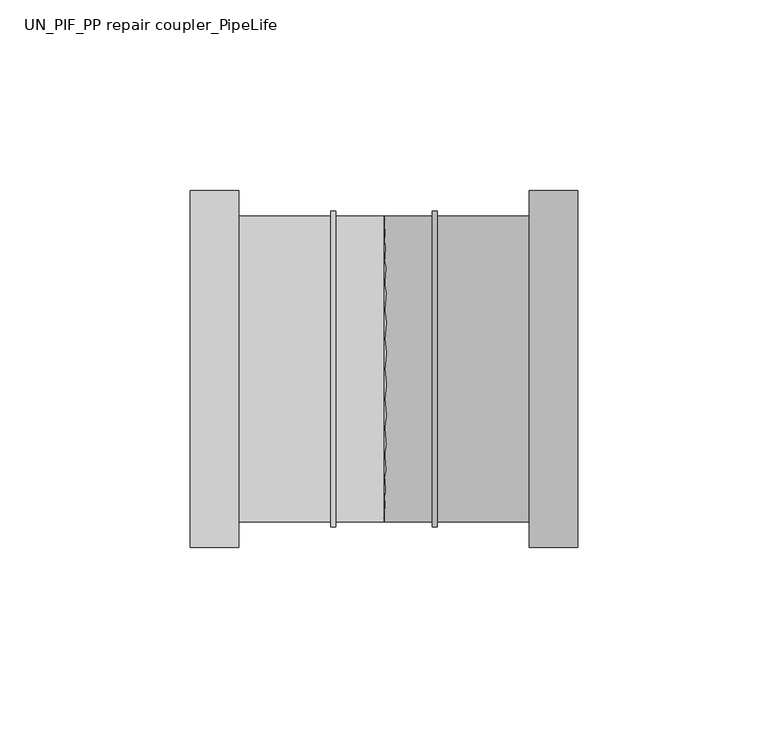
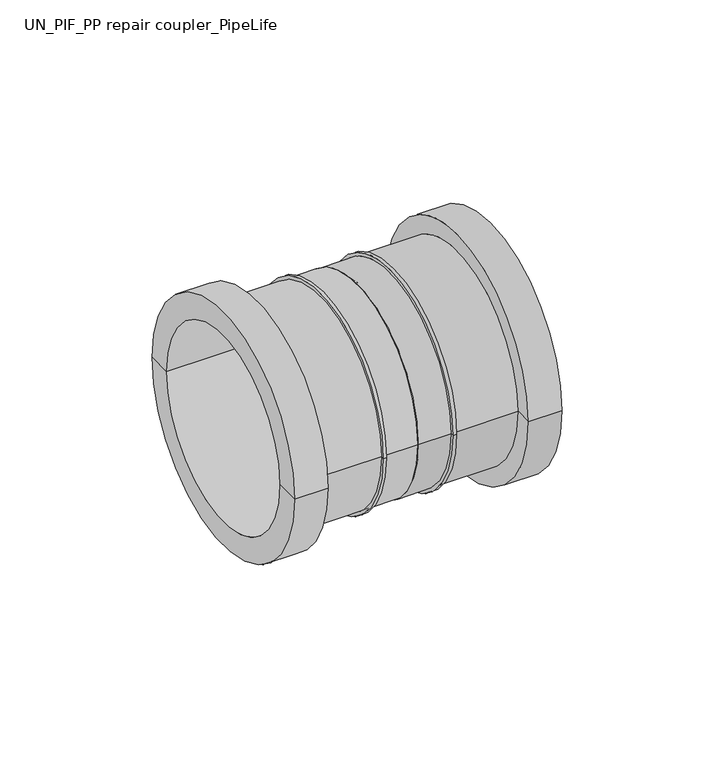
"""IFC4 building model written with IfcOpenShell, lengths in millimetres: pipe fitting geometry, UN_PIF_PP repair coupler_PipeLife : Black, var. DN/OD (max. ø125)."""

from ifc_helpers import new_model, si_unit, frame, origin, place, context, project, spatial, polyline, circle_curve, source, transform, mapped, element, save
from ifc_brep_helpers import plane_surface, cylinder_surface, revolved_surface, advanced_brep


def un_pif_pp_repair_coupler_pipelife_34faee59(model_context):
    return source(origin(), model_context, "Body", "AdvancedBrep", [
        advanced_brep(
        [(2.7, 37.5, 0.0), (2.7, -37.5, 0.0), (0.0, -40.2, 0.0), (0.0, 40.2, 0.0), (-50.8, 46.9, 0.0), (-50.8, -46.9, 0.0), (-50.8, -37.5, 0.0), (-50.8, 37.5, 0.0), (-38.1, 46.9, 0.0), (-38.1, -46.9, 0.0), (-38.1, 40.2, 0.0), (-38.1, -40.2, 0.0), (-13.95, 40.2, 0.0), (-13.95, -40.2, 0.0), (-13.95, 41.45, 0.0), (-13.95, -41.45, 0.0), (-12.7, 41.45, 0.0), (-12.7, -41.45, 0.0), (-12.7, 40.2, 0.0), (-12.7, -40.2, 0.0)],
        [
            (0, 1, circle_curve(frame((2.7, 0.0, 0.0), z_axis=(-1.0, 0.0, 0.0), x_axis=(0.0, -1.0, 0.0)), 37.5)),
            (1, 2),
            (2, 3, circle_curve(frame((0.0, 0.0, 0.0), z_axis=(1.0, 0.0, 0.0), x_axis=(0.0, -1.0, 0.0)), 40.2)),
            (3, 0),
            (1, 0, circle_curve(frame((2.7, 0.0, 0.0), z_axis=(-1.0, 0.0, 0.0), x_axis=(0.0, -1.0, 0.0)), 37.5)),
            (3, 2, circle_curve(frame((0.0, 0.0, 0.0), z_axis=(1.0, 0.0, 0.0), x_axis=(0.0, -1.0, 0.0)), 40.2)),
            (4, 5, circle_curve(frame((-50.8, 0.0, 0.0), z_axis=(-1.0, 0.0, 0.0), x_axis=(0.0, -1.0, 0.0)), 46.9)),
            (5, 6),
            (6, 7, circle_curve(frame((-50.8, 0.0, 0.0), z_axis=(1.0, 0.0, 0.0), x_axis=(0.0, -1.0, 0.0)), 37.5)),
            (7, 4),
            (5, 4, circle_curve(frame((-50.8, 0.0, 0.0), z_axis=(-1.0, 0.0, 0.0), x_axis=(0.0, -1.0, 0.0)), 46.9)),
            (7, 6, circle_curve(frame((-50.8, 0.0, 0.0), z_axis=(1.0, 0.0, 0.0), x_axis=(0.0, -1.0, 0.0)), 37.5)),
            (8, 9, circle_curve(frame((-38.1, 0.0, 0.0), z_axis=(-1.0, 0.0, 0.0), x_axis=(0.0, -1.0, 0.0)), 46.9)),
            (9, 5),
            (4, 8),
            (9, 8, circle_curve(frame((-38.1, 0.0, 0.0), z_axis=(-1.0, 0.0, 0.0), x_axis=(0.0, -1.0, 0.0)), 46.9)),
            (10, 11, circle_curve(frame((-38.1, 0.0, 0.0), z_axis=(-1.0, 0.0, 0.0), x_axis=(0.0, -1.0, 0.0)), 40.2)),
            (11, 9),
            (8, 10),
            (11, 10, circle_curve(frame((-38.1, 0.0, 0.0), z_axis=(-1.0, 0.0, 0.0), x_axis=(0.0, -1.0, 0.0)), 40.2)),
            (12, 13, circle_curve(frame((-13.95, 0.0, 0.0), z_axis=(-1.0, 0.0, 0.0), x_axis=(0.0, -1.0, 0.0)), 40.2)),
            (13, 11),
            (10, 12),
            (13, 12, circle_curve(frame((-13.95, 0.0, 0.0), z_axis=(-1.0, 0.0, 0.0), x_axis=(0.0, -1.0, 0.0)), 40.2)),
            (14, 15, circle_curve(frame((-13.95, 0.0, 0.0), z_axis=(-1.0, 0.0, 0.0), x_axis=(0.0, -1.0, 0.0)), 41.45)),
            (15, 13),
            (12, 14),
            (15, 14, circle_curve(frame((-13.95, 0.0, 0.0), z_axis=(-1.0, 0.0, 0.0), x_axis=(0.0, -1.0, 0.0)), 41.45)),
            (16, 17, circle_curve(frame((-12.7, 0.0, 0.0), z_axis=(-1.0, 0.0, 0.0), x_axis=(0.0, -1.0, 0.0)), 41.45)),
            (17, 15),
            (14, 16),
            (17, 16, circle_curve(frame((-12.7, 0.0, 0.0), z_axis=(-1.0, 0.0, 0.0), x_axis=(0.0, -1.0, 0.0)), 41.45)),
            (18, 19, circle_curve(frame((-12.7, 0.0, 0.0), z_axis=(-1.0, 0.0, 0.0), x_axis=(0.0, -1.0, 0.0)), 40.2)),
            (19, 17),
            (16, 18),
            (19, 18, circle_curve(frame((-12.7, 0.0, 0.0), z_axis=(-1.0, 0.0, 0.0), x_axis=(0.0, -1.0, 0.0)), 40.2)),
            (2, 19),
            (18, 3),
            (6, 1),
            (0, 7),
        ],
        [
            revolved_surface(polyline([(0.0, -40.2, 0.0), (2.7, -37.5, 0.0)]), (-50.8, 0.0, 0.0), (1.0, 0.0, 0.0)),
            plane_surface(frame((-50.8, 0.0, 0.0), z_axis=(-1.0, 0.0, 0.0), x_axis=(0.0, -1.0, 0.0))),
            cylinder_surface(frame((-50.8, 0.0, 0.0), z_axis=(1.0, 0.0, 0.0), x_axis=(0.0, -1.0, 0.0)), 46.9),
            plane_surface(frame((-38.1, 0.0, 0.0), z_axis=(1.0, 0.0, 0.0), x_axis=(0.0, -1.0, 0.0))),
            cylinder_surface(frame((-50.8, 0.0, 0.0), z_axis=(1.0, 0.0, 0.0), x_axis=(0.0, -1.0, 0.0)), 40.2),
            plane_surface(frame((-13.95, 0.0, 0.0), z_axis=(-1.0, 0.0, 0.0), x_axis=(0.0, -1.0, 0.0))),
            cylinder_surface(frame((-50.8, 0.0, 0.0), z_axis=(1.0, 0.0, 0.0), x_axis=(0.0, -1.0, 0.0)), 41.45),
            plane_surface(frame((-12.7, 0.0, 0.0), z_axis=(1.0, 0.0, 0.0), x_axis=(0.0, -1.0, 0.0))),
            revolved_surface(polyline([(2.700000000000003, -37.5, 0.0), (-50.8, -37.5, 0.0)]), (-50.8, 0.0, 0.0), (1.0, 0.0, 0.0)),
        ],
        [
            (0, [[1, 2, 3, 4]]),
            (0, [[5, -4, 6, -2]]),
            (1, [[7, 8, 9, 10]]),
            (1, [[11, -10, 12, -8]]),
            (2, [[13, 14, -7, 15]]),
            (2, [[16, -15, -11, -14]]),
            (3, [[17, 18, -13, 19]]),
            (3, [[20, -19, -16, -18]]),
            (4, [[21, 22, -17, 23]]),
            (4, [[24, -23, -20, -22]]),
            (5, [[25, 26, -21, 27]]),
            (5, [[28, -27, -24, -26]]),
            (6, [[29, 30, -25, 31]]),
            (6, [[32, -31, -28, -30]]),
            (7, [[33, 34, -29, 35]]),
            (7, [[36, -35, -32, -34]]),
            (4, [[-3, 37, -33, 38]]),
            (4, [[-6, -38, -36, -37]]),
            (8, [[-9, 39, -1, 40]]),
            (8, [[-12, -40, -5, -39]]),
        ],
    ),
        advanced_brep(
        [(-2.7, -37.5, 0.0), (-2.7, 37.5, 0.0), (0.0, 40.2, 0.0), (0.0, -40.2, 0.0), (50.8, -46.9, 0.0), (50.8, 46.9, 0.0), (50.8, 37.5, 0.0), (50.8, -37.5, 0.0), (38.1, -46.9, 0.0), (38.1, 46.9, 0.0), (38.1, -40.2, 0.0), (38.1, 40.2, 0.0), (13.95, -40.2, 0.0), (13.95, 40.2, 0.0), (13.95, -41.45, 0.0), (13.95, 41.45, 0.0), (12.7, -41.45, 0.0), (12.7, 41.45, 0.0), (12.7, -40.2, 0.0), (12.7, 40.2, 0.0)],
        [
            (0, 1, circle_curve(frame((-2.7, 0.0, 0.0), z_axis=(1.0, 0.0, 0.0), x_axis=(0.0, 1.0, 0.0)), 37.5)),
            (1, 2),
            (2, 3, circle_curve(frame((0.0, 0.0, 0.0), z_axis=(-1.0, 0.0, 0.0), x_axis=(0.0, 1.0, 0.0)), 40.2)),
            (3, 0),
            (1, 0, circle_curve(frame((-2.7, 0.0, 0.0), z_axis=(1.0, 0.0, 0.0), x_axis=(0.0, 1.0, 0.0)), 37.5)),
            (3, 2, circle_curve(frame((0.0, 0.0, 0.0), z_axis=(-1.0, 0.0, 0.0), x_axis=(0.0, 1.0, 0.0)), 40.2)),
            (4, 5, circle_curve(frame((50.8, 0.0, 0.0), z_axis=(1.0, 0.0, 0.0), x_axis=(0.0, 1.0, 0.0)), 46.9)),
            (5, 6),
            (6, 7, circle_curve(frame((50.8, 0.0, 0.0), z_axis=(-1.0, 0.0, 0.0), x_axis=(0.0, 1.0, 0.0)), 37.5)),
            (7, 4),
            (5, 4, circle_curve(frame((50.8, 0.0, 0.0), z_axis=(1.0, 0.0, 0.0), x_axis=(0.0, 1.0, 0.0)), 46.9)),
            (7, 6, circle_curve(frame((50.8, 0.0, 0.0), z_axis=(-1.0, 0.0, 0.0), x_axis=(0.0, 1.0, 0.0)), 37.5)),
            (8, 9, circle_curve(frame((38.1, 0.0, 0.0), z_axis=(1.0, 0.0, 0.0), x_axis=(0.0, 1.0, 0.0)), 46.9)),
            (9, 5),
            (4, 8),
            (9, 8, circle_curve(frame((38.1, 0.0, 0.0), z_axis=(1.0, 0.0, 0.0), x_axis=(0.0, 1.0, 0.0)), 46.9)),
            (10, 11, circle_curve(frame((38.1, 0.0, 0.0), z_axis=(1.0, 0.0, 0.0), x_axis=(0.0, 1.0, 0.0)), 40.2)),
            (11, 9),
            (8, 10),
            (11, 10, circle_curve(frame((38.1, 0.0, 0.0), z_axis=(1.0, 0.0, 0.0), x_axis=(0.0, 1.0, 0.0)), 40.2)),
            (12, 13, circle_curve(frame((13.95, 0.0, 0.0), z_axis=(1.0, 0.0, 0.0), x_axis=(0.0, 1.0, 0.0)), 40.2)),
            (13, 11),
            (10, 12),
            (13, 12, circle_curve(frame((13.95, 0.0, 0.0), z_axis=(1.0, 0.0, 0.0), x_axis=(0.0, 1.0, 0.0)), 40.2)),
            (14, 15, circle_curve(frame((13.95, 0.0, 0.0), z_axis=(1.0, 0.0, 0.0), x_axis=(0.0, 1.0, 0.0)), 41.45)),
            (15, 13),
            (12, 14),
            (15, 14, circle_curve(frame((13.95, 0.0, 0.0), z_axis=(1.0, 0.0, 0.0), x_axis=(0.0, 1.0, 0.0)), 41.45)),
            (16, 17, circle_curve(frame((12.7, 0.0, 0.0), z_axis=(1.0, 0.0, 0.0), x_axis=(0.0, 1.0, 0.0)), 41.45)),
            (17, 15),
            (14, 16),
            (17, 16, circle_curve(frame((12.7, 0.0, 0.0), z_axis=(1.0, 0.0, 0.0), x_axis=(0.0, 1.0, 0.0)), 41.45)),
            (18, 19, circle_curve(frame((12.7, 0.0, 0.0), z_axis=(1.0, 0.0, 0.0), x_axis=(0.0, 1.0, 0.0)), 40.2)),
            (19, 17),
            (16, 18),
            (19, 18, circle_curve(frame((12.7, 0.0, 0.0), z_axis=(1.0, 0.0, 0.0), x_axis=(0.0, 1.0, 0.0)), 40.2)),
            (2, 19),
            (18, 3),
            (6, 1),
            (0, 7),
        ],
        [
            revolved_surface(polyline([(0.0, 40.2, 0.0), (-2.7, 37.5, 0.0)]), (50.8, 0.0, 0.0), (-1.0, 0.0, 0.0)),
            plane_surface(frame((50.8, 0.0, 0.0), z_axis=(1.0, 0.0, 0.0), x_axis=(0.0, 1.0, 0.0))),
            cylinder_surface(frame((50.8, 0.0, 0.0), z_axis=(-1.0, 0.0, 0.0), x_axis=(0.0, 1.0, 0.0)), 46.9),
            plane_surface(frame((38.1, 0.0, 0.0), z_axis=(-1.0, 0.0, 0.0), x_axis=(0.0, 1.0, 0.0))),
            cylinder_surface(frame((50.8, 0.0, 0.0), z_axis=(-1.0, 0.0, 0.0), x_axis=(0.0, 1.0, 0.0)), 40.2),
            plane_surface(frame((13.95, 0.0, 0.0), z_axis=(1.0, 0.0, 0.0), x_axis=(0.0, 1.0, 0.0))),
            cylinder_surface(frame((50.8, 0.0, 0.0), z_axis=(-1.0, 0.0, 0.0), x_axis=(0.0, 1.0, 0.0)), 41.45),
            plane_surface(frame((12.7, 0.0, 0.0), z_axis=(-1.0, 0.0, 0.0), x_axis=(0.0, 1.0, 0.0))),
            revolved_surface(polyline([(-2.700000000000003, 37.5, 0.0), (50.8, 37.5, 0.0)]), (50.8, 0.0, 0.0), (-1.0, 0.0, 0.0)),
        ],
        [
            (0, [[1, 2, 3, 4]]),
            (0, [[5, -4, 6, -2]]),
            (1, [[7, 8, 9, 10]]),
            (1, [[11, -10, 12, -8]]),
            (2, [[13, 14, -7, 15]]),
            (2, [[16, -15, -11, -14]]),
            (3, [[17, 18, -13, 19]]),
            (3, [[20, -19, -16, -18]]),
            (4, [[21, 22, -17, 23]]),
            (4, [[24, -23, -20, -22]]),
            (5, [[25, 26, -21, 27]]),
            (5, [[28, -27, -24, -26]]),
            (6, [[29, 30, -25, 31]]),
            (6, [[32, -31, -28, -30]]),
            (7, [[33, 34, -29, 35]]),
            (7, [[36, -35, -32, -34]]),
            (4, [[-3, 37, -33, 38]]),
            (4, [[-6, -38, -36, -37]]),
            (8, [[-9, 39, -1, 40]]),
            (8, [[-12, -40, -5, -39]]),
        ],
    ),
    ])


if __name__ == "__main__":
    model = new_model("IFC4")
    model_context = context("Model", 3, world=origin())
    ifc_project = project(units=[si_unit("LENGTHUNIT", "METRE", prefix="MILLI")], contexts=[model_context])
    site = spatial("IfcSite", under=ifc_project)
    building = spatial("IfcBuilding", under=site)
    placement = place(None, origin())
    un_pif_pp_repair_coupler_pipelife_shape = un_pif_pp_repair_coupler_pipelife_34faee59(model_context)
    element("IfcPipeFitting", 1, ObjectType="UN_PIF_PP repair coupler_PipeLife : Black, var. DN/OD (max. ø125)", at=placement, inside=building, context=model_context, shape_type="MappedRepresentation", body=[
        mapped(un_pif_pp_repair_coupler_pipelife_shape, transform((0.0, 0.0, 0.0), x_axis=(1.0, 0.0, 0.0), y_axis=(0.0, 1.0, 0.0), z_axis=(0.0, 0.0, 1.0))),
    ])
    save(model, "model.ifc")
